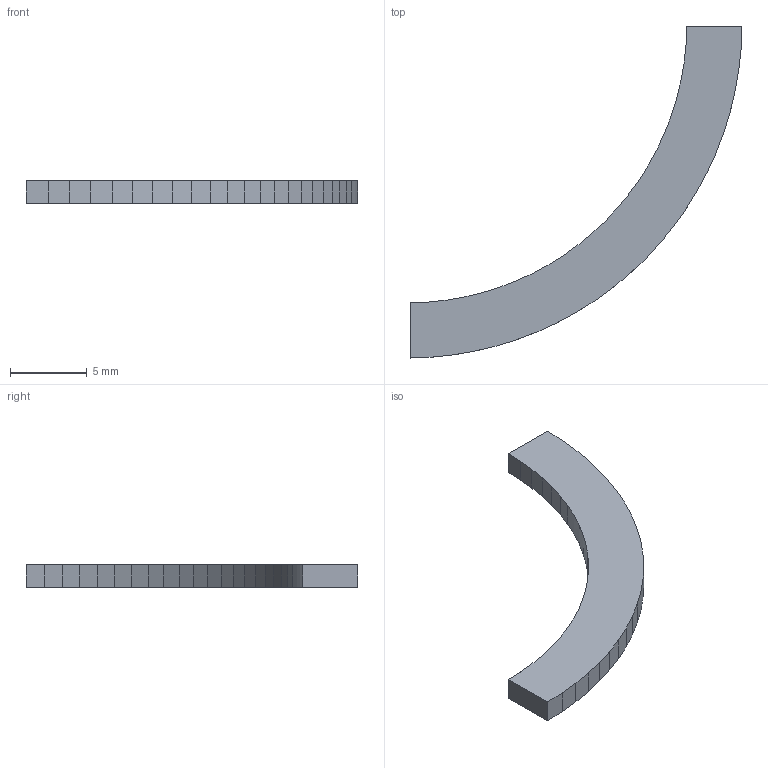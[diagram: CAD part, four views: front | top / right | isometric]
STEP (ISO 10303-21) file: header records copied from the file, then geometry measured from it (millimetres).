
FILE_DESCRIPTION(('Open CASCADE Model'),'2;1');
FILE_NAME('Open CASCADE Shape Model','2026-10-27T10:00:44',('Author'),( 'Open CASCADE'),'Open CASCADE STEP processor 8.0','build123d', 'Unknown');
FILE_SCHEMA(('AUTOMOTIVE_DESIGN { 1 0 10303 214 1 1 1 1 }'));
Length unit declared in the file: millimetre
Products named in the file (2): =>[0:1:1:2]; COMPOUND
Assembly tree (1 placements, depth 2):
  =>[0:1:1:2]
    COMPOUND
Bounding box: 21.66 x 21.66 x 1.5 mm (x, y, z)
Volume: 167.9 mm3; surface area: 328 mm2
Topology: 1 solids, 1 shells, 52 faces, 150 edges, 100 vertices
Faces by surface type: plane 52
Entity records: 3652 total; most frequent: CARTESIAN_POINT 604, DIRECTION 558, LINE 450, VECTOR 450, ORIENTED_EDGE 300, PCURVE 300, DEFINITIONAL_REPRESENTATION 300, EDGE_CURVE 150
